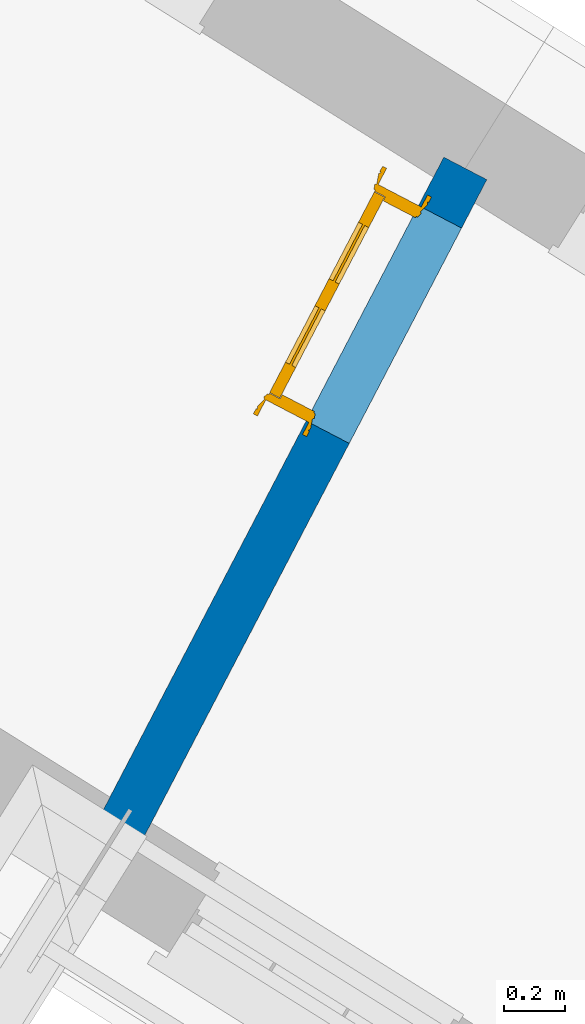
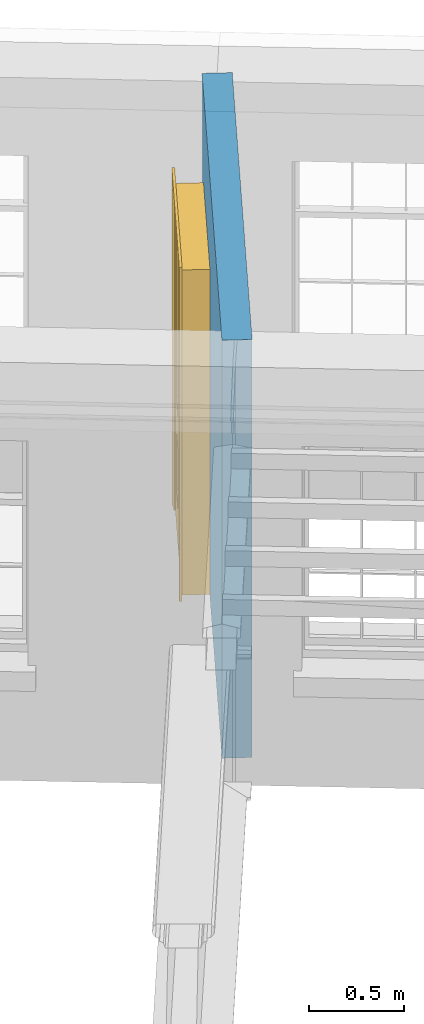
# One storey, part 3 of 5: 1 door, 1 wall, 1 opening.
"""IFC4 building model written with IfcOpenShell, lengths in metres."""

from ifc_helpers import new_model, si_unit, frame, origin, origin_with_axes, place, context, subcontext, project, spatial, polyline, outline, extrude, faceted_brep, source, transform, mapped, material, layer, layer_set, layer_usage, type_object, type_shapes, element, fill, save


model = new_model("IFC4")

# Units and contexts
model_context = context("Model", 3, world=origin_with_axes())
body_context = subcontext(model_context, "Body", "Model", "MODEL_VIEW")
ifc_project = project(units=[si_unit("PLANEANGLEUNIT", "RADIAN"), si_unit("MASSUNIT", "GRAM", prefix="KILO"), si_unit("FORCEUNIT", "NEWTON", prefix="KILO"), si_unit("LENGTHUNIT", "METRE"), si_unit("AREAUNIT", "SQUARE_METRE"), si_unit("VOLUMEUNIT", "CUBIC_METRE")], contexts=[model_context, model_context])

# Sites, building, storey
site_1_placement = place(None, origin_with_axes())
site_1 = spatial("IfcSite", under=ifc_project, at=site_1_placement, Name="Tamar")
site_2_placement = place(site_1_placement, origin_with_axes())
site_2 = spatial("IfcSite", under=site_1, at=site_2_placement, Name="Site plot-3", CompositionType="ELEMENT")
building_placement = place(None, origin_with_axes())
building = spatial("IfcBuilding", under=site_2, at=building_placement, Name="Building plot-3", CompositionType="ELEMENT")
storey_placement = place(None, frame((0.0, 0.0, 30.5), z_axis=(0.0, 0.0, 1.0), x_axis=(1.0, 0.0, 0.0)))
storey = spatial("IfcBuildingStorey", under=building, at=storey_placement, Name="plot-3 2", CompositionType="ELEMENT", Elevation=30.5)

# Wall, opening, door
ifc_material = material(Name="Masonry")
ifc_layer = layer(ifc_material, 0.16, ventilated=False)
ifc_layer_set = layer_set([ifc_layer], Name="interior_0.08_0.08")
ifc_layer_usage = layer_usage(ifc_layer_set, "AXIS2", "POSITIVE", -0.08)
wall_type = type_object("IfcWallType", Name="interior_0.08_0.08", PredefinedType="SOLIDWALL", material=ifc_layer_set)
wall_placement = place(storey_placement, frame((216.299124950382, 286.059601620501, 0.0), z_axis=(0.0, 0.0, 1.0), x_axis=(0.462522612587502, 0.886607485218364, 0.0)))
wall = element("IfcWall", 1, at=wall_placement, inside=storey, type_object=wall_type, material=ifc_layer_usage, Name="interior", context=body_context, shape_type="SweptSolid", body=[
    extrude(outline(polyline([(-5.45772033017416e-16, 0.0799999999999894), (5.37805639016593e-16, -0.0799999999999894), (2.46391585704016, -0.0799999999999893), (2.46391585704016, 0.0799999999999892), (-5.45772033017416e-16, 0.0799999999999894)])), origin_with_axes(), (0.0, 0.0, 1.0), 2.7),
])
opening_placement = place(wall_placement, frame((1.48391585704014, 0.0, 0.0199999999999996)))
opening = element("IfcOpeningElement", 2, at=opening_placement, cuts=wall, Name="My Opening", ObjectType="Opening", context=body_context, shape_type="SweptSolid", body=[
    extrude(outline(polyline([(0.0, -0.100000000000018), (0.80000000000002, -0.100000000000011), (0.800000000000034, 1.10000000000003), (1.3988810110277e-14, 1.10000000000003), (0.0, -0.100000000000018)])), origin_with_axes(), (0.0, 0.0, 1.0), 2.1),
])
door_type = type_object("IfcDoorType", Name="door_inside", OperationType="SINGLE_SWING_LEFT", PredefinedType="NOTDEFINED")
shared_shape = source(origin(), body_context, "Body", "Brep", [
    faceted_brep([(0.773, 0.33, 1.895), (0.66, 0.33, 1.895), (0.66, 0.33, 2.073), (0.773, 0.33, 2.073), (0.773, 0.33, 0.82), (0.66, 0.33, 0.82), (0.45, 0.33, 1.895), (0.45, 0.33, 2.073), (0.773, 0.33, 0.62), (0.66, 0.33, 0.62), (0.66, 0.315, 0.82), (0.66, 0.315, 1.895), (0.45, 0.315, 1.895), (0.35, 0.33, 1.895), (0.35, 0.33, 2.073), (0.773, 0.33, 0.225), (0.66, 0.33, 0.225), (0.45, 0.33, 0.62), (0.45, 0.33, 0.82), (0.45, 0.315, 0.82), (0.35, 0.33, 0.82), (0.14, 0.33, 2.073), (0.14, 0.33, 1.895), (0.773, 0.33, 0.0), (0.66, 0.33, 0.0), (0.66, 0.315, 0.225), (0.66, 0.315, 0.62), (0.45, 0.315, 0.62), (0.35, 0.33, 0.62), (0.35, 0.315, 0.82), (0.35, 0.315, 1.895), (0.14, 0.315, 1.895), (0.027, 0.33, 2.073), (0.027, 0.33, 1.895), (0.773, 0.292, 0.0), (0.66, 0.292, 0.0), (0.45, 0.33, 0.0), (0.45, 0.33, 0.225), (0.45, 0.315, 0.225), (0.35, 0.33, 0.225), (0.14, 0.33, 0.82), (0.14, 0.33, 0.62), (0.14, 0.315, 0.82), (0.027, 0.33, 0.82), (0.773, 0.292, 0.225), (0.66, 0.292, 0.225), (0.45, 0.292, 0.0), (0.35, 0.33, 0.0), (0.35, 0.315, 0.225), (0.35, 0.315, 0.62), (0.14, 0.315, 0.62), (0.027, 0.33, 0.62), (0.773, 0.292, 0.62), (0.66, 0.292, 0.62), (0.45, 0.292, 0.225), (0.35, 0.292, 0.0), (0.14, 0.33, 0.225), (0.14, 0.33, 0.0), (0.14, 0.315, 0.225), (0.027, 0.33, 0.225), (0.773, 0.292, 0.82), (0.66, 0.292, 0.82), (0.66, 0.307, 0.62), (0.66, 0.307, 0.225), (0.45, 0.307, 0.225), (0.35, 0.292, 0.225), (0.14, 0.292, 0.0), (0.027, 0.33, 0.0), (0.773, 0.292, 1.895), (0.66, 0.292, 1.895), (0.45, 0.292, 0.62), (0.45, 0.292, 0.82), (0.45, 0.307, 0.62), (0.35, 0.292, 0.62), (0.14, 0.292, 0.225), (0.027, 0.292, 0.0), (0.773, 0.292, 2.073), (0.66, 0.292, 2.073), (0.66, 0.307, 1.895), (0.66, 0.307, 0.82), (0.45, 0.307, 0.82), (0.35, 0.292, 0.82), (0.35, 0.307, 0.62), (0.35, 0.307, 0.225), (0.14, 0.307, 0.225), (0.027, 0.292, 0.225), (0.45, 0.292, 1.895), (0.45, 0.292, 2.073), (0.45, 0.307, 1.895), (0.35, 0.292, 1.895), (0.14, 0.292, 0.82), (0.14, 0.292, 0.62), (0.14, 0.307, 0.62), (0.027, 0.292, 0.62), (0.35, 0.292, 2.073), (0.35, 0.307, 1.895), (0.35, 0.307, 0.82), (0.14, 0.307, 0.82), (0.027, 0.292, 0.82), (0.14, 0.292, 2.073), (0.14, 0.292, 1.895), (0.14, 0.307, 1.895), (0.027, 0.292, 1.895), (0.027, 0.292, 2.073), (0.02, 0.335, 0.0), (0.005, 0.34, 0.0), (0.005, 0.34, 2.095), (0.02, 0.335, 2.08), (0.02, 0.33, 0.0), (0.0, 0.335, 0.0), (0.0, 0.335, 2.1), (0.795, 0.34, 2.095), (0.78, 0.335, 2.08), (0.02, 0.33, 2.08), (0.0, 0.33, 0.0), (-0.032, 0.345, 0.0), (-0.032, 0.345, 2.132), (0.8, 0.335, 2.1), (0.795, 0.34, 0.0), (0.78, 0.335, 0.0), (0.78, 0.33, 2.08), (0.04, 0.29, 0.0), (0.025, 0.29, 0.0), (0.025, 0.29, 2.075), (0.04, 0.29, 2.06), (-0.04, 0.34, 0.0), (-0.04, 0.34, 2.14), (0.832, 0.345, 2.132), (0.8, 0.335, 0.0), (0.78, 0.33, 0.0), (0.8, 0.33, 0.0), (0.86, 0.33, 0.0), (0.86, 0.33, 2.16), (0.8, 0.33, 2.1), (-0.06, 0.33, 2.16), (0.0, 0.33, 2.1), (-0.06, 0.33, 0.0), (-0.04, 0.345, 0.0), (-0.04, 0.345, 2.14), (0.84, 0.34, 2.14), (0.832, 0.345, 0.0), (0.84, 0.34, 0.0), (0.86, 0.345, 0.0), (0.86, 0.345, 2.16), (-0.06, 0.345, 2.16), (-0.06, 0.345, 0.0), (0.84, 0.345, 0.0), (0.84, 0.345, 2.14), (-0.025, 0.155, 0.0), (-0.025, 0.16, 0.0), (-0.025, 0.16, 2.125), (-0.025, 0.155, 2.125), (-0.017, 0.155, 0.0), (-0.017, 0.155, 2.117), (0.825, 0.16, 2.125), (0.825, 0.155, 2.125), (0.825, 0.155, 0.0), (0.845, 0.155, 0.0), (-0.045, 0.155, 2.145), (-0.045, 0.155, 0.0), (0.845, 0.155, 2.145), (0.015, 0.165, 0.0), (0.015, 0.165, 2.085), (0.817, 0.155, 2.117), (0.825, 0.16, 0.0), (0.845, 0.17, 0.0), (0.845, 0.17, 2.145), (-0.045, 0.17, 2.145), (-0.045, 0.17, 0.0), (0.02, 0.16, 0.0), (0.02, 0.16, 2.08), (0.785, 0.165, 2.085), (0.817, 0.155, 0.0), (0.8, 0.17, 0.0), (0.8, 0.17, 2.1), (0.0, 0.17, 2.1), (0.0, 0.17, 0.0), (0.035, 0.165, 0.0), (0.035, 0.165, 2.065), (0.78, 0.16, 2.08), (0.785, 0.165, 0.0), (0.775, 0.29, 2.075), (0.76, 0.29, 2.06), (0.035, 0.17, 2.065), (0.035, 0.17, 0.0), (0.765, 0.165, 2.065), (0.78, 0.16, 0.0), (0.765, 0.17, 0.0), (0.765, 0.17, 2.065), (0.765, 0.165, 0.0), (0.04, 0.17, 2.06), (0.04, 0.17, 0.0), (0.76, 0.17, 2.06), (0.76, 0.17, 0.0), (0.76, 0.29, 0.0), (0.775, 0.29, 0.0), (0.025, 0.33, 0.0), (0.025, 0.33, 2.075), (0.775, 0.33, 0.0), (0.775, 0.33, 2.075)], [[[0, 1, 2, 3]], [[1, 0, 4, 5]], [[1, 6, 7, 2]], [[8, 9, 5, 4]], [[1, 5, 10, 11]], [[6, 1, 11, 12]], [[6, 13, 14, 7]], [[15, 16, 9, 8]], [[9, 17, 18, 5]], [[5, 18, 19, 10]], [[10, 19, 12, 11]], [[18, 6, 12, 19]], [[18, 20, 13, 6]], [[21, 14, 13, 22]], [[23, 24, 16, 15]], [[9, 16, 25, 26]], [[17, 9, 26, 27]], [[17, 28, 20, 18]], [[13, 20, 29, 30]], [[22, 13, 30, 31]], [[32, 21, 22, 33]], [[34, 35, 24, 23]], [[24, 36, 37, 16]], [[16, 37, 38, 25]], [[25, 38, 27, 26]], [[37, 17, 27, 38]], [[37, 39, 28, 17]], [[40, 20, 28, 41]], [[20, 40, 42, 29]], [[31, 30, 29, 42]], [[40, 22, 31, 42]], [[33, 22, 40, 43]], [[35, 34, 44, 45]], [[35, 46, 36, 24]], [[36, 47, 39, 37]], [[28, 39, 48, 49]], [[41, 28, 49, 50]], [[43, 40, 41, 51]], [[45, 44, 52, 53]], [[46, 35, 45, 54]], [[46, 55, 47, 36]], [[56, 39, 47, 57]], [[39, 56, 58, 48]], [[50, 49, 48, 58]], [[56, 41, 50, 58]], [[51, 41, 56, 59]], [[53, 52, 60, 61]], [[45, 53, 62, 63]], [[54, 45, 63, 64]], [[55, 46, 54, 65]], [[55, 66, 57, 47]], [[59, 56, 57, 67]], [[61, 60, 68, 69]], [[70, 53, 61, 71]], [[53, 70, 72, 62]], [[72, 64, 63, 62]], [[70, 54, 64, 72]], [[65, 54, 70, 73]], [[65, 74, 66, 55]], [[67, 57, 66, 75]], [[69, 68, 76, 77]], [[61, 69, 78, 79]], [[71, 61, 79, 80]], [[73, 70, 71, 81]], [[65, 73, 82, 83]], [[74, 65, 83, 84]], [[74, 85, 75, 66]], [[86, 69, 77, 87]], [[69, 86, 88, 78]], [[88, 80, 79, 78]], [[86, 71, 80, 88]], [[81, 71, 86, 89]], [[73, 81, 90, 91]], [[73, 91, 92, 82]], [[83, 82, 92, 84]], [[91, 74, 84, 92]], [[91, 93, 85, 74]], [[89, 86, 87, 94]], [[81, 89, 95, 96]], [[90, 81, 96, 97]], [[90, 98, 93, 91]], [[94, 99, 100, 89]], [[89, 100, 101, 95]], [[101, 97, 96, 95]], [[100, 90, 97, 101]], [[100, 102, 98, 90]], [[99, 103, 102, 100]], [[32, 103, 99, 21]], [[102, 103, 32, 33]], [[98, 102, 33, 43]], [[21, 99, 94, 14]], [[94, 87, 7, 14]], [[7, 87, 77, 2]], [[76, 3, 2, 77]], [[43, 51, 93, 98]], [[51, 59, 85, 93]], [[67, 75, 85, 59]], [[34, 23, 15, 44]], [[44, 15, 8, 52]], [[52, 8, 4, 60]], [[0, 68, 60, 4]], [[0, 3, 76, 68]], [[104, 105, 106, 107]], [[104, 108, 109, 105]], [[105, 109, 110, 106]], [[107, 106, 111, 112]], [[107, 113, 108, 104]], [[114, 109, 108]], [[109, 115, 116, 110]], [[106, 110, 117, 111]], [[112, 111, 118, 119]], [[113, 107, 112, 120]], [[121, 122, 123, 124]], [[115, 109, 114, 125]], [[115, 125, 126, 116]], [[110, 116, 127, 117]], [[111, 117, 128, 118]], [[118, 128, 129, 119]], [[120, 112, 119, 129]], [[130, 129, 128]], [[130, 131, 132, 133]], [[133, 132, 134, 135]], [[135, 134, 136, 114]], [[136, 125, 114]], [[125, 137, 138, 126]], [[116, 126, 139, 127]], [[117, 127, 140, 128]], [[141, 130, 128, 140]], [[131, 130, 141]], [[131, 142, 143, 132]], [[132, 143, 144, 134]], [[134, 144, 145, 136]], [[137, 125, 136, 145]], [[143, 142, 146]], [[143, 146, 147]], [[137, 145, 144]], [[143, 147, 138]], [[138, 137, 144]], [[143, 138, 144]], [[126, 138, 147, 139]], [[127, 139, 141, 140]], [[142, 131, 141, 146]], [[139, 147, 146, 141]], [[148, 149, 150, 151]], [[149, 152, 153, 150]], [[151, 150, 154, 155]], [[155, 156, 157]], [[158, 159, 148]], [[158, 148, 151]], [[155, 157, 160]], [[158, 151, 155]], [[155, 160, 158]], [[152, 161, 162, 153]], [[150, 153, 163, 154]], [[155, 154, 164, 156]], [[156, 164, 165, 157]], [[157, 165, 166, 160]], [[160, 166, 167, 158]], [[158, 167, 168, 159]], [[161, 169, 170, 162]], [[153, 162, 171, 163]], [[154, 163, 172, 164]], [[165, 164, 173]], [[165, 173, 174, 166]], [[166, 174, 175, 167]], [[167, 175, 176, 168]], [[169, 177, 178, 170]], [[162, 170, 179, 171]], [[163, 171, 180, 172]], [[172, 180, 173, 164]], [[124, 123, 181, 182]], [[183, 178, 177, 184]], [[170, 178, 185, 179]], [[171, 179, 186, 180]], [[187, 173, 180]], [[185, 188, 187, 189]], [[188, 185, 178, 183]], [[179, 185, 189, 186]], [[189, 187, 180, 186]], [[190, 183, 184, 191]], [[192, 188, 183, 190]], [[191, 184, 122, 121]], [[124, 190, 191, 121]], [[193, 187, 188, 192]], [[182, 192, 190, 124]], [[184, 176, 122]], [[194, 195, 187, 193]], [[192, 182, 194, 193]], [[161, 176, 184]], [[114, 108, 122, 176]], [[173, 187, 195]], [[152, 149, 176, 161]], [[169, 161, 184, 177]], [[196, 122, 108]], [[176, 175, 135, 114]], [[173, 195, 129, 130]], [[176, 149, 168]], [[123, 122, 196, 197]], [[196, 108, 113, 197]], [[175, 174, 133, 135]], [[198, 129, 195]], [[133, 174, 173, 130]], [[159, 168, 149, 148]], [[181, 123, 197, 199]], [[197, 113, 120, 199]], [[199, 120, 129, 198]], [[195, 181, 199, 198]], [[195, 194, 182, 181]]]),
])
type_shapes(door_type, [shared_shape])
door_placement = place(storey_placement, frame((217.074130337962, 287.329000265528, 0.0199999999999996), z_axis=(0.0, 0.0, 1.0), x_axis=(0.370018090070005, 0.709285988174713, 0.0)))
door = element("IfcDoor", 3, at=door_placement, inside=storey, type_object=door_type, Name="bedroom inside door", OverallHeight=2.1, OverallWidth=0.8, context=body_context, shape_type="MappedRepresentation", body=[
    mapped(shared_shape, transform((0.0, 0.0, 0.0), scale=1.0)),
])
fill(opening, door)

save(model, "model.ifc")
